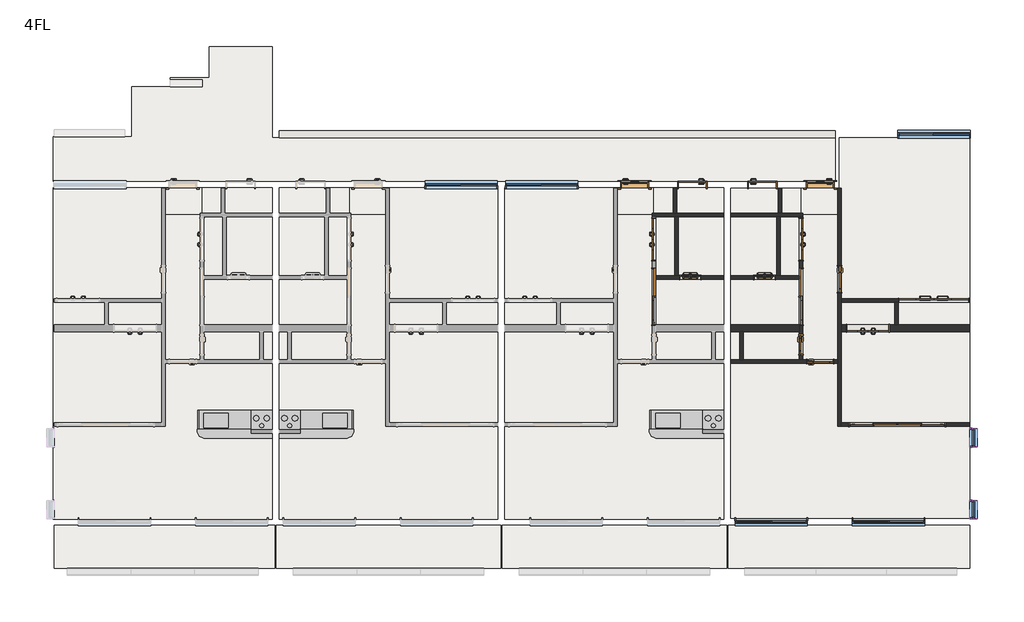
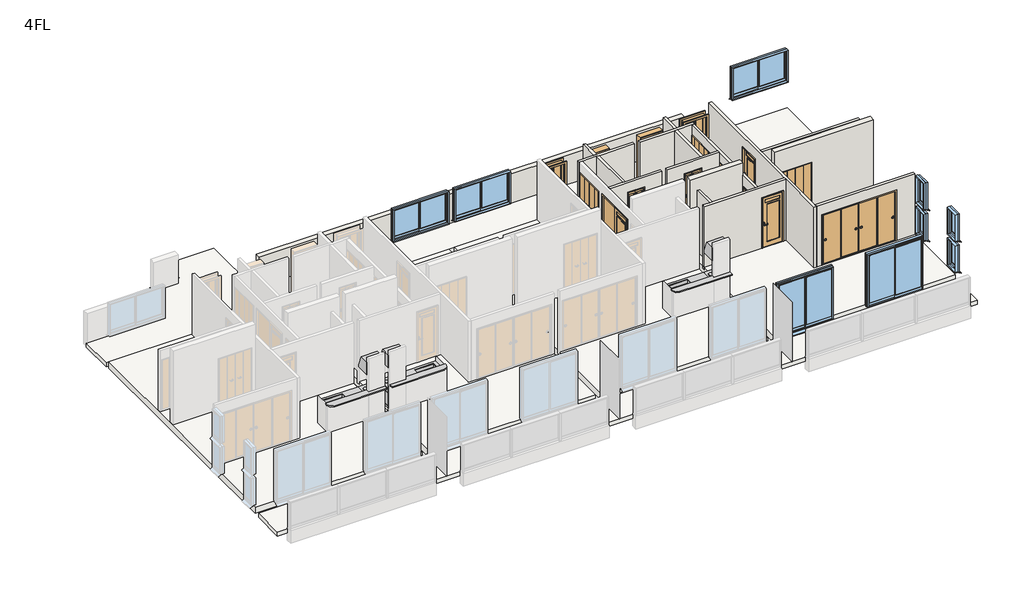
# One storey, part 3 of 3: 18 walls, 16 doors, 14 slabs, 9 windows, 3 flow terminals, 3 furniture elements.
"""IFC4 building model written with IfcOpenShell, lengths in millimetres."""

from ifc_helpers import new_model, si_unit, frame, origin, place, context, project, spatial, polyline, outline, extrude, faceted_brep, transform, mapped, element, save
from components import door_800x2000_a7d1584b, door_800x2000_010bfebf, w1200h2000_6a144d60, w1200h2000_99d19fb3, w1200h2000_ebe1d490, w1600h2000_4c3c234a, w1600h2000_ca690e72, w2000h2000_5dbb6d6a, w2800h2000_04aa64cd, w600h2000_6a266bef, w600h2000_94bb9c3c, w600h2000_8ea70a65, w800h2000_1d97c4d4, w800h2000_0ab7d42c, w800h2000_13e9f519, w800h2000_ccb03061, flow_terminal_5276808d, flow_terminal_b13850ba, furniture_3a0496f9, furniture_dadabe7c, window_2000x1200_fc91d1cf, window_2000x2000_f1ff98da, window_450x1000_1cddc73c

model = new_model("IFC4")

# Units and contexts
model_context = context("Model", 3, world=origin())
ifc_project = project(units=[si_unit("LENGTHUNIT", "METRE", prefix="MILLI")], contexts=[model_context])

# Site, building, storey
site = spatial("IfcSite", under=ifc_project)
building = spatial("IfcBuilding", under=site)
storey = spatial("IfcBuildingStorey", under=building, Name="4FL", Elevation=10000.0)

# Doors
placement = place(None, origin())
door_800x2000_shape = door_800x2000_a7d1584b(model_context)
element("IfcDoor", 1, ObjectType="片開き3 : 800x2000", at=placement, inside=storey, context=model_context, shape_type="MappedRepresentation", body=[
    mapped(door_800x2000_shape, transform((5521.2812754, -5726.3671638, 10000.0), x_axis=(1.0, 0.0, 0.0), y_axis=(0.0, 1.0, 0.0), z_axis=(0.0, 0.0, 1.0))),
])
door_800x2000_2_shape = door_800x2000_010bfebf(model_context)
element("IfcDoor", 2, ObjectType="片開き3 : 800x2000", at=placement, inside=storey, context=model_context, shape_type="MappedRepresentation", body=[
    mapped(door_800x2000_2_shape, transform((10821.2812754, -5726.3671638, 10000.0), x_axis=(-1.0, 0.0, 0.0), y_axis=(0.0, -1.0, 0.0), z_axis=(0.0, 0.0, 1.0))),
])
w1200h2000_shape = w1200h2000_6a144d60(model_context)
element("IfcDoor", 3, ObjectType="木製折戸 : w1200h2000", at=placement, inside=storey, context=model_context, shape_type="MappedRepresentation", body=[
    mapped(w1200h2000_shape, transform((6071.2812754, -7280.1171638, 10100.0), x_axis=(0.0, 1.0, 0.0), y_axis=(-1.0, 0.0, 0.0), z_axis=(0.0, 0.0, 1.0))),
])
w1200h2000_2_shape = w1200h2000_99d19fb3(model_context)
element("IfcDoor", 4, ObjectType="木製折戸 : w1200h2000", at=placement, inside=storey, context=model_context, shape_type="MappedRepresentation", body=[
    mapped(w1200h2000_2_shape, transform((10271.2812754, -7280.1171638, 10100.0), x_axis=(0.0, 1.0, 0.0), y_axis=(-1.0, 0.0, 0.0), z_axis=(0.0, 0.0, 1.0))),
])
w1200h2000_3_shape = w1200h2000_ebe1d490(model_context)
element("IfcDoor", 5, ObjectType="木製折戸 : w1200h2000", at=placement, inside=storey, context=model_context, shape_type="MappedRepresentation", body=[
    mapped(w1200h2000_3_shape, transform((12183.7812754, -9820.1171638, 10100.0), x_axis=(1.0, 0.0, 0.0), y_axis=(0.0, 1.0, 0.0), z_axis=(0.0, 0.0, 1.0))),
])
w1600h2000_shape = w1600h2000_4c3c234a(model_context)
element("IfcDoor", 6, ObjectType="片引戸CL2017 : w1600h2000", at=placement, inside=storey, context=model_context, shape_type="MappedRepresentation", body=[
    mapped(w1600h2000_shape, transform((6071.2812754, -8920.1171638, 10100.0), x_axis=(0.0, -1.0, 0.0), y_axis=(1.0, 0.0, 0.0), z_axis=(0.0, 0.0, 1.0))),
])
w1600h2000_2_shape = w1600h2000_ca690e72(model_context)
element("IfcDoor", 7, ObjectType="片引戸CL2017 : w1600h2000", at=placement, inside=storey, context=model_context, shape_type="MappedRepresentation", body=[
    mapped(w1600h2000_2_shape, transform((10271.2812754, -8920.1171638, 10100.0), x_axis=(0.0, -1.0, 0.0), y_axis=(1.0, 0.0, 0.0), z_axis=(0.0, 0.0, 1.0))),
])
w2000h2000_shape = w2000h2000_5dbb6d6a(model_context)
element("IfcDoor", 8, ObjectType="木製折戸 : w2000h2000", at=placement, inside=storey, context=model_context, shape_type="MappedRepresentation", body=[
    mapped(w2000h2000_shape, transform((14066.2812754, -9020.1171638, 10100.0), x_axis=(-1.0, 0.0, 0.0), y_axis=(0.0, -1.0, 0.0), z_axis=(0.0, 0.0, 1.0))),
])
w2800h2000_shape = w2800h2000_04aa64cd(model_context)
element("IfcDoor", 9, ObjectType="引違い 4 枚 2 溝_襖 : w2800h2000", at=placement, inside=storey, context=model_context, shape_type="MappedRepresentation", body=[
    mapped(w2800h2000_shape, transform((13026.8167793, -12570.1171638, 10100.0), x_axis=(1.0, 0.0, 0.0), y_axis=(0.0, 1.0, 0.0), z_axis=(0.0, 0.0, 1.0))),
])
w600h2000_shape = w600h2000_6a266bef(model_context)
element("IfcDoor", 10, ObjectType="浴室折戸 : w600h2000", at=placement, inside=storey, context=model_context, shape_type="MappedRepresentation", body=[
    mapped(w600h2000_shape, transform((7111.2812754, -8370.1171638, 10100.0), x_axis=(1.0, 0.0, 0.0), y_axis=(0.0, 1.0, 0.0), z_axis=(0.0, 0.0, 1.0))),
])
w600h2000_2_shape = w600h2000_94bb9c3c(model_context)
element("IfcDoor", 11, ObjectType="浴室折戸 : w600h2000", at=placement, inside=storey, context=model_context, shape_type="MappedRepresentation", body=[
    mapped(w600h2000_2_shape, transform((9231.2812754, -8370.1171638, 10100.0), x_axis=(-1.0, 0.0, 0.0), y_axis=(0.0, -1.0, 0.0), z_axis=(0.0, 0.0, 1.0))),
])
w600h2000_3_shape = w600h2000_8ea70a65(model_context)
element("IfcDoor", 12, ObjectType="片開戸CL2058 : w600h2000", at=placement, inside=storey, context=model_context, shape_type="MappedRepresentation", body=[
    mapped(w600h2000_3_shape, transform((10271.2812754, -10295.1171638, 10100.0), x_axis=(0.0, -1.0, 0.0), y_axis=(1.0, 0.0, 0.0), z_axis=(0.0, 0.0, 1.0))),
])
w800h2000_shape = w800h2000_1d97c4d4(model_context)
element("IfcDoor", 13, ObjectType="片開 : w800h2000", at=placement, inside=storey, context=model_context, shape_type="MappedRepresentation", body=[
    mapped(w800h2000_shape, transform((7171.2812754, -5726.3671638, 10000.0), x_axis=(-1.0, 0.0, 0.0), y_axis=(0.0, -1.0, 0.0), z_axis=(0.0, 0.0, 1.0))),
])
w800h2000_2_shape = w800h2000_0ab7d42c(model_context)
element("IfcDoor", 14, ObjectType="片開 : w800h2000", at=placement, inside=storey, context=model_context, shape_type="MappedRepresentation", body=[
    mapped(w800h2000_2_shape, transform((9171.2812754, -5726.3671638, 10000.0), x_axis=(1.0, 0.0, 0.0), y_axis=(0.0, 1.0, 0.0), z_axis=(0.0, 0.0, 1.0))),
])
w800h2000_3_shape = w800h2000_13e9f519(model_context)
element("IfcDoor", 15, ObjectType="片開戸CL2058 : w800h2000", at=placement, inside=storey, context=model_context, shape_type="MappedRepresentation", body=[
    mapped(w800h2000_3_shape, transform((10821.2812754, -10770.1171638, 10100.0), x_axis=(1.0, 0.0, 0.0), y_axis=(0.0, 1.0, 0.0), z_axis=(0.0, 0.0, 1.0))),
])
w800h2000_4_shape = w800h2000_ccb03061(model_context)
element("IfcDoor", 16, ObjectType="片開戸CL2058 : w800h2000", at=placement, inside=storey, context=model_context, shape_type="MappedRepresentation", body=[
    mapped(w800h2000_4_shape, transform((11371.2812754, -8420.1171638, 10100.0), x_axis=(0.0, -1.0, 0.0), y_axis=(1.0, 0.0, 0.0), z_axis=(0.0, 0.0, 1.0))),
])

# Flow terminals
flow_terminal_shape = flow_terminal_5276808d(model_context)
element("IfcFlowTerminal", 17, ObjectType="システムキッチンIH : システムキッチンIH", at=placement, inside=storey, context=model_context, shape_type="MappedRepresentation", body=[
    mapped(flow_terminal_shape, transform((-4828.7187246, -12720.1171638, 10200.0), x_axis=(1.0, 0.0, 0.0), y_axis=(0.0, 1.0, 0.0), z_axis=(0.0, 0.0, 1.0))),
])
element("IfcFlowTerminal", 18, ObjectType="システムキッチンIH : システムキッチンIH", at=placement, inside=storey, context=model_context, shape_type="MappedRepresentation", body=[
    mapped(flow_terminal_shape, transform((8071.2812754, -12720.1171638, 10200.0), x_axis=(1.0, 0.0, 0.0), y_axis=(0.0, 1.0, 0.0), z_axis=(0.0, 0.0, 1.0))),
])
flow_terminal_2_shape = flow_terminal_b13850ba(model_context)
element("IfcFlowTerminal", 19, ObjectType="システムキッチンIH : システムキッチンIH", at=placement, inside=storey, context=model_context, shape_type="MappedRepresentation", body=[
    mapped(flow_terminal_2_shape, transform((-4628.7187246, -12720.1171638, 10200.0), x_axis=(-1.0, 0.0, 0.0), y_axis=(0.0, -1.0, 0.0), z_axis=(0.0, 0.0, 1.0))),
])

# Furniture
furniture_shape = furniture_3a0496f9(model_context)
element("IfcFurniture", 20, ObjectType="キッチンカウンター : キッチンカウンター", at=placement, inside=storey, context=model_context, shape_type="MappedRepresentation", body=[
    mapped(furniture_shape, transform((-4628.7187246, -12820.1171638, 10100.0), x_axis=(-1.0, 0.0, 0.0), y_axis=(0.0, -1.0, 0.0), z_axis=(0.0, 0.0, 1.0))),
])
furniture_2_shape = furniture_dadabe7c(model_context)
element("IfcFurniture", 21, ObjectType="キッチンカウンター : キッチンカウンター", at=placement, inside=storey, context=model_context, shape_type="MappedRepresentation", body=[
    mapped(furniture_2_shape, transform((-4828.7187246, -12820.1171638, 10100.0), x_axis=(1.0, 0.0, 0.0), y_axis=(0.0, 1.0, 0.0), z_axis=(0.0, 0.0, 1.0))),
])
element("IfcFurniture", 22, ObjectType="キッチンカウンター : キッチンカウンター", at=placement, inside=storey, context=model_context, shape_type="MappedRepresentation", body=[
    mapped(furniture_2_shape, transform((8071.2812754, -12820.1171638, 10100.0), x_axis=(1.0, 0.0, 0.0), y_axis=(0.0, 1.0, 0.0), z_axis=(0.0, 0.0, 1.0))),
])

# Slabs
element("IfcSlab", 23, ObjectType="RC150＋100", at=placement, inside=storey, context=model_context, shape_type="SweptSolid", body=[
    extrude(outline(polyline([(-4828.7187246, -15270.1171638), (-11078.7187246, -15270.1171638), (-11078.7187246, -5800.1171638), (-7928.7187246, -5800.1171638), (-7928.7187246, -6580.1171638), (-6828.7187246, -6580.1171638), (-6828.7187246, -5800.1171638), (-4828.7187246, -5800.1171638), (-4828.7187246, -6580.1171638), (-6188.7187246, -6580.1171638), (-6188.7187246, -8370.1171638), (-4828.7187246, -8370.1171638), (-4828.7187246, -15270.1171638)])), frame((0.0, 0.0, 9850.0), z_axis=(0.0, 0.0, 1.0), x_axis=(1.0, 0.0, 0.0)), (0.0, 0.0, 1.0), 250.0),
])
element("IfcSlab", 24, ObjectType="RC150＋100", at=placement, inside=storey, context=model_context, shape_type="SweptSolid", body=[
    extrude(outline(polyline([(-4628.7187246, -15270.1171638), (-4628.7187246, -8370.1171638), (-3268.7187246, -8370.1171638), (-3268.7187246, -6580.1171638), (-4628.7187246, -6580.1171638), (-4628.7187246, -5800.1171638), (-2628.7187246, -5800.1171638), (-2628.7187246, -6580.1171638), (-1528.7187246, -6580.1171638), (-1528.7187246, -5800.1171638), (1621.2812754, -5800.1171638), (1621.2812754, -15270.1171638), (-4628.7187246, -15270.1171638)])), frame((0.0, 0.0, 9850.0), z_axis=(0.0, 0.0, 1.0), x_axis=(1.0, 0.0, 0.0)), (0.0, 0.0, 1.0), 250.0),
])
element("IfcSlab", 25, ObjectType="RC150＋100", at=placement, inside=storey, context=model_context, shape_type="SweptSolid", body=[
    extrude(outline(polyline([(8071.2812754, -15270.1171638), (1821.2812754, -15270.1171638), (1821.2812754, -5800.1171638), (4971.2812754, -5800.1171638), (4971.2812754, -6580.1171638), (6071.2812754, -6580.1171638), (6071.2812754, -5800.1171638), (8071.2812754, -5800.1171638), (8071.2812754, -6580.1171638), (6711.2812754, -6580.1171638), (6711.2812754, -8370.1171638), (8071.2812754, -8370.1171638), (8071.2812754, -15270.1171638)])), frame((0.0, 0.0, 9850.0), z_axis=(0.0, 0.0, 1.0), x_axis=(1.0, 0.0, 0.0)), (0.0, 0.0, 1.0), 250.0),
])
element("IfcSlab", 26, ObjectType="RC150＋100", at=placement, inside=storey, context=model_context, shape_type="SweptSolid", body=[
    extrude(outline(polyline([(8271.2812754, -15243.8671638), (8271.2812754, -8370.1171638), (9631.2812754, -8370.1171638), (9631.2812754, -6580.1171638), (8271.2812754, -6580.1171638), (8271.2812754, -5826.3671638), (10271.2812754, -5826.3671638), (10271.2812754, -6580.1171638), (11371.2812754, -6580.1171638), (11371.2812754, -4376.3671638), (15095.0312754, -4376.3671638), (15095.0312754, -15243.8671638), (8271.2812754, -15243.8671638)])), frame((0.0, 0.0, 9850.0), z_axis=(0.0, 0.0, 1.0), x_axis=(1.0, 0.0, 0.0)), (0.0, 0.0, 1.0), 250.0),
])
element("IfcSlab", 27, ObjectType="RC150", at=placement, inside=storey, context=model_context, shape_type="SweptSolid", body=[
    extrude(outline(polyline([(-4828.7187246, -8370.1171638), (-6188.7187246, -8370.1171638), (-6188.7187246, -6580.1171638), (-4828.7187246, -6580.1171638), (-4828.7187246, -8370.1171638)])), frame((0.0, 0.0, 9850.0), z_axis=(0.0, 0.0, 1.0), x_axis=(1.0, 0.0, 0.0)), (0.0, 0.0, 1.0), 150.0),
])
element("IfcSlab", 28, ObjectType="RC150", at=placement, inside=storey, context=model_context, shape_type="SweptSolid", body=[
    extrude(outline(polyline([(-6828.7187246, -6580.1171638), (-7928.7187246, -6580.1171638), (-7928.7187246, -5800.1171638), (-6828.7187246, -5800.1171638), (-6828.7187246, -6580.1171638)])), frame((0.0, 0.0, 9800.0), z_axis=(0.0, 0.0, 1.0), x_axis=(1.0, 0.0, 0.0)), (0.0, 0.0, 1.0), 150.0),
])
element("IfcSlab", 29, ObjectType="RC150", at=placement, inside=storey, context=model_context, shape_type="SweptSolid", body=[
    extrude(outline(polyline([(-4628.7187246, -8370.1171638), (-4628.7187246, -6580.1171638), (-3268.7187246, -6580.1171638), (-3268.7187246, -8370.1171638), (-4628.7187246, -8370.1171638)])), frame((0.0, 0.0, 9850.0), z_axis=(0.0, 0.0, 1.0), x_axis=(1.0, 0.0, 0.0)), (0.0, 0.0, 1.0), 150.0),
])
element("IfcSlab", 30, ObjectType="RC150", at=placement, inside=storey, context=model_context, shape_type="SweptSolid", body=[
    extrude(outline(polyline([(-2628.7187246, -6580.1171638), (-2628.7187246, -5800.1171638), (-1528.7187246, -5800.1171638), (-1528.7187246, -6580.1171638), (-2628.7187246, -6580.1171638)])), frame((0.0, 0.0, 9800.0), z_axis=(0.0, 0.0, 1.0), x_axis=(1.0, 0.0, 0.0)), (0.0, 0.0, 1.0), 150.0),
])
element("IfcSlab", 31, ObjectType="RC150", at=placement, inside=storey, context=model_context, shape_type="SweptSolid", body=[
    extrude(outline(polyline([(8071.2812754, -8370.1171638), (6711.2812754, -8370.1171638), (6711.2812754, -6580.1171638), (8071.2812754, -6580.1171638), (8071.2812754, -8370.1171638)])), frame((0.0, 0.0, 9850.0), z_axis=(0.0, 0.0, 1.0), x_axis=(1.0, 0.0, 0.0)), (0.0, 0.0, 1.0), 150.0),
])
element("IfcSlab", 32, ObjectType="RC150", at=placement, inside=storey, context=model_context, shape_type="SweptSolid", body=[
    extrude(outline(polyline([(6071.2812754, -6580.1171638), (4971.2812754, -6580.1171638), (4971.2812754, -5800.1171638), (6071.2812754, -5800.1171638), (6071.2812754, -6580.1171638)])), frame((0.0, 0.0, 9800.0), z_axis=(0.0, 0.0, 1.0), x_axis=(1.0, 0.0, 0.0)), (0.0, 0.0, 1.0), 150.0),
])
element("IfcSlab", 33, ObjectType="RC150", at=placement, inside=storey, context=model_context, shape_type="SweptSolid", body=[
    extrude(outline(polyline([(8271.2812754, -8370.1171638), (8271.2812754, -6580.1171638), (9631.2812754, -6580.1171638), (9631.2812754, -8370.1171638), (8271.2812754, -8370.1171638)])), frame((0.0, 0.0, 9850.0), z_axis=(0.0, 0.0, 1.0), x_axis=(1.0, 0.0, 0.0)), (0.0, 0.0, 1.0), 150.0),
])
element("IfcSlab", 34, ObjectType="RC150", at=placement, inside=storey, context=model_context, shape_type="SweptSolid", body=[
    extrude(outline(polyline([(10271.2812754, -6580.1171638), (10271.2812754, -5826.3671638), (11371.2812754, -5826.3671638), (11371.2812754, -6580.1171638), (10271.2812754, -6580.1171638)])), frame((0.0, 0.0, 9800.0), z_axis=(0.0, 0.0, 1.0), x_axis=(1.0, 0.0, 0.0)), (0.0, 0.0, 1.0), 150.0),
])
element("IfcSlab", 35, ObjectType="RC150", at=placement, inside=storey, context=model_context, shape_type="SweptSolid", body=[
    extrude(outline(polyline([(15095.0312754, -15443.8671638), (15095.0312754, -16670.1171638), (-11052.4687246, -16670.1171638), (-11052.4687246, -15443.8671638), (15095.0312754, -15443.8671638)])), frame((0.0, 0.0, 9800.0), z_axis=(0.0, 0.0, 1.0), x_axis=(1.0, 0.0, 0.0)), (0.0, 0.0, 1.0), 150.0),
])
element("IfcSlab", 36, ObjectType="RC150", at=placement, inside=storey, context=model_context, shape_type="SweptSolid", body=[
    extrude(outline(polyline([(-8828.7187246, -4350.1171638), (-8828.7187246, -2920.1171638), (-7728.7187246, -2920.1171638), (-7728.7187246, -2660.1171638), (-6628.7187246, -2660.1171638), (-6628.7187246, -1775.1171638), (-4828.7187246, -1775.1171638), (-4828.7187246, -4376.3671638), (11247.5312754, -4376.3671638), (11247.5312754, -5626.3671638), (-11078.7187246, -5626.3671638), (-11078.7187246, -4350.1171638), (-8828.7187246, -4350.1171638)])), frame((0.0, 0.0, 9800.0), z_axis=(0.0, 0.0, 1.0), x_axis=(1.0, 0.0, 0.0)), (0.0, 0.0, 1.0), 150.0),
])

# Walls
element("IfcWall", 37, ObjectType="(R)RC200", at=placement, inside=storey, context=model_context, shape_type="Brep", body=[
    faceted_brep([(15095.0312754, -9720.1171638, 10000.0), (13046.2812754, -9720.1171638, 10000.0), (12946.2812754, -9720.1171638, 10000.0), (11421.2812754, -9720.1171638, 10000.0), (11421.2812754, -9720.1171638, 13000.0), (15095.0312754, -9720.1171638, 13000.0), (12803.7812754, -9720.1171638, 12120.0), (11563.7812754, -9720.1171638, 12120.0), (11563.7812754, -9720.1171638, 10100.0), (12803.7812754, -9720.1171638, 10100.0), (15095.0312754, -9920.1171638, 10000.0), (15095.0312754, -9920.1171638, 13000.0), (11421.2812754, -9920.1171638, 13000.0), (11421.2812754, -9920.1171638, 10000.0), (12803.7812754, -9920.1171638, 12120.0), (12803.7812754, -9920.1171638, 10100.0), (11563.7812754, -9920.1171638, 10100.0), (11563.7812754, -9920.1171638, 12120.0)], [[[0, 1, 2, 3, 4, 5], [6, 7, 8, 9]], [[10, 11, 12, 13], [14, 15, 16, 17]], [[3, 2, 1, 0, 10, 13]], [[5, 4, 12, 11]], [[4, 3, 13, 12]], [[15, 14, 6, 9]], [[16, 15, 9, 8]], [[17, 16, 8, 7]], [[14, 17, 7, 6]], [[0, 5, 11, 10]]]),
])
element("IfcWall", 38, ObjectType="(R)RC200", at=placement, inside=storey, context=model_context, shape_type="Brep", body=[
    faceted_brep([(10221.2812754, -9720.1171638, 10000.0), (8271.2812754, -9720.1171638, 10000.0), (8271.2812754, -9720.1171638, 13000.0), (10221.2812754, -9720.1171638, 13000.0), (10221.2812754, -9920.1171638, 10000.0), (10221.2812754, -9920.1171638, 13000.0), (8271.2812754, -9920.1171638, 13000.0), (8271.2812754, -9920.1171638, 10000.0), (8521.2812754, -9920.1171638, 10000.0), (8621.2812754, -9920.1171638, 10000.0)], [[[0, 1, 2, 3]], [[4, 5, 6, 7, 8, 9]], [[1, 0, 4, 9, 8, 7]], [[3, 2, 6, 5]], [[0, 3, 5, 4]], [[2, 1, 7, 6]]]),
])
element("IfcWall", 39, ObjectType="(R)RC200", at=placement, inside=storey, context=model_context, shape_type="SweptSolid", body=[
    extrude(outline(polyline([(11247.5312754, -4376.3671638), (-4628.7187246, -4376.3671638), (-4628.7187246, -4176.3671638), (11247.5312754, -4176.3671638), (11247.5312754, -4376.3671638)])), frame((0.0, 0.0, 9800.0), z_axis=(0.0, 0.0, 1.0), x_axis=(1.0, 0.0, 0.0)), (0.0, 0.0, 1.0), 1300.0),
])
element("IfcWall", 40, ObjectType="(L1)LGS100", at=placement, inside=storey, context=model_context, shape_type="Brep", body=[
    faceted_brep([(6121.2812754, -8420.1171638, 10000.0), (8071.2812754, -8420.1171638, 10000.0), (8071.2812754, -8420.1171638, 12500.0), (6121.2812754, -8420.1171638, 12500.0), (7431.2812754, -8420.1171638, 12120.0), (7431.2812754, -8420.1171638, 10100.0), (6791.2812754, -8420.1171638, 10100.0), (6791.2812754, -8420.1171638, 12120.0), (6121.2812754, -8320.1171638, 10000.0), (6121.2812754, -8320.1171638, 12500.0), (6661.2812754, -8320.1171638, 12500.0), (6761.2812754, -8320.1171638, 12500.0), (8071.2812754, -8320.1171638, 12500.0), (8071.2812754, -8320.1171638, 10000.0), (6761.2812754, -8320.1171638, 10000.0), (6661.2812754, -8320.1171638, 10000.0), (7431.2812754, -8320.1171638, 12120.0), (6791.2812754, -8320.1171638, 12120.0), (6791.2812754, -8320.1171638, 10100.0), (7431.2812754, -8320.1171638, 10100.0)], [[[0, 1, 2, 3], [4, 5, 6, 7]], [[8, 9, 10, 11, 12, 13, 14, 15], [16, 17, 18, 19]], [[1, 0, 8, 15, 14, 13]], [[3, 2, 12, 11, 10, 9]], [[0, 3, 9, 8]], [[5, 4, 16, 19]], [[6, 5, 19, 18]], [[7, 6, 18, 17]], [[4, 7, 17, 16]], [[2, 1, 13, 12]]]),
])
element("IfcWall", 41, ObjectType="(L1)LGS100", at=placement, inside=storey, context=model_context, shape_type="Brep", body=[
    faceted_brep([(6021.2812754, -6630.1171638, 10000.0), (6121.2812754, -6630.1171638, 10000.0), (6661.2812754, -6630.1171638, 10000.0), (6761.2812754, -6630.1171638, 10000.0), (8071.2812754, -6630.1171638, 10000.0), (8071.2812754, -6630.1171638, 12500.0), (6761.2812754, -6630.1171638, 12500.0), (6661.2812754, -6630.1171638, 12500.0), (6121.2812754, -6630.1171638, 12500.0), (6021.2812754, -6630.1171638, 12500.0), (6021.2812754, -6530.1171638, 10000.0), (6021.2812754, -6530.1171638, 12500.0), (6621.2812754, -6530.1171638, 12500.0), (6721.2812754, -6530.1171638, 12500.0), (8071.2812754, -6530.1171638, 12500.0), (8071.2812754, -6530.1171638, 10000.0), (6721.2812754, -6530.1171638, 10000.0), (6621.2812754, -6530.1171638, 10000.0)], [[[0, 1, 2, 3, 4, 5, 6, 7, 8, 9]], [[10, 11, 12, 13, 14, 15, 16, 17]], [[4, 3, 2, 1, 0, 10, 17, 16, 15]], [[9, 8, 7, 6, 5, 14, 13, 12, 11]], [[0, 9, 11, 10]], [[5, 4, 15, 14]]]),
])
element("IfcWall", 42, ObjectType="(L1)LGS100", at=placement, inside=storey, context=model_context, shape_type="SweptSolid", body=[
    extrude(outline(polyline([(6721.2812754, -5826.3671638), (6721.2812754, -6530.1171638), (6621.2812754, -6530.1171638), (6621.2812754, -5826.3671638), (6721.2812754, -5826.3671638)])), frame((0.0, 0.0, 10000.0), z_axis=(0.0, 0.0, 1.0), x_axis=(1.0, 0.0, 0.0)), (0.0, 0.0, 1.0), 2500.0),
])
element("IfcWall", 43, ObjectType="(L1)LGS100", at=placement, inside=storey, context=model_context, shape_type="SweptSolid", body=[
    extrude(outline(polyline([(6761.2812754, -6630.1171638), (6761.2812754, -8320.1171638), (6661.2812754, -8320.1171638), (6661.2812754, -6630.1171638), (6761.2812754, -6630.1171638)])), frame((0.0, 0.0, 10000.0), z_axis=(0.0, 0.0, 1.0), x_axis=(1.0, 0.0, 0.0)), (0.0, 0.0, 1.0), 2500.0),
])
element("IfcWall", 44, ObjectType="(L1)LGS100", at=placement, inside=storey, context=model_context, shape_type="Brep", body=[
    faceted_brep([(15095.0312754, -8970.1171638, 10000.0), (11421.2812754, -8970.1171638, 10000.0), (11421.2812754, -8970.1171638, 12500.0), (15095.0312754, -8970.1171638, 12500.0), (13046.2812754, -8970.1171638, 12120.0), (13046.2812754, -8970.1171638, 10100.0), (15086.2812754, -8970.1171638, 10100.0), (15086.2812754, -8970.1171638, 12120.0), (11421.2812754, -9070.1171638, 10000.0), (12946.2812754, -9070.1171638, 10000.0), (13046.2812754, -9070.1171638, 10000.0), (15095.0312754, -9070.1171638, 10000.0), (15095.0312754, -9070.1171638, 12500.0), (13046.2812754, -9070.1171638, 12500.0), (12946.2812754, -9070.1171638, 12500.0), (11421.2812754, -9070.1171638, 12500.0), (13046.2812754, -9070.1171638, 10100.0), (13046.2812754, -9070.1171638, 12120.0), (15086.2812754, -9070.1171638, 12120.0), (15086.2812754, -9070.1171638, 10100.0)], [[[0, 1, 2, 3], [4, 5, 6, 7]], [[8, 9, 10, 11, 12, 13, 14, 15], [16, 17, 18, 19]], [[1, 0, 11, 10, 9, 8]], [[3, 2, 15, 14, 13, 12]], [[2, 1, 8, 15]], [[4, 17, 16, 5]], [[5, 16, 19, 6]], [[17, 4, 7, 18]], [[18, 7, 6, 19]], [[0, 3, 12, 11]]]),
])
element("IfcWall", 45, ObjectType="(L1)LGS100", at=placement, inside=storey, context=model_context, shape_type="Brep", body=[
    faceted_brep([(13046.2812754, -9720.1171638, 10000.0), (13046.2812754, -9070.1171638, 10000.0), (13046.2812754, -9070.1171638, 10100.0), (13046.2812754, -9070.1171638, 12120.0), (13046.2812754, -9070.1171638, 12500.0), (13046.2812754, -9720.1171638, 12500.0), (12946.2812754, -9720.1171638, 10000.0), (12946.2812754, -9720.1171638, 12500.0), (12946.2812754, -9070.1171638, 12500.0), (12946.2812754, -9070.1171638, 10000.0)], [[[0, 1, 2, 3, 4, 5]], [[6, 7, 8, 9]], [[1, 0, 6, 9]], [[5, 4, 8, 7]], [[0, 5, 7, 6]], [[4, 3, 2, 1, 9, 8]]]),
])
element("IfcWall", 46, ObjectType="(L1)LGS100", at=placement, inside=storey, context=model_context, shape_type="Brep", body=[
    faceted_brep([(11421.2812754, -12620.1171638, 10000.0), (11421.2812754, -12520.1171638, 10000.0), (11421.2812754, -9920.1171638, 10000.0), (11421.2812754, -9720.1171638, 10000.0), (11421.2812754, -9070.1171638, 10000.0), (11421.2812754, -8970.1171638, 10000.0), (11421.2812754, -5826.3671638, 10000.0), (11421.2812754, -5826.3671638, 12500.0), (11421.2812754, -8970.1171638, 12500.0), (11421.2812754, -9070.1171638, 12500.0), (11421.2812754, -12520.1171638, 12500.0), (11421.2812754, -12620.1171638, 12500.0), (11421.2812754, -8820.1171638, 10100.0), (11421.2812754, -8820.1171638, 12100.0), (11421.2812754, -8020.1171638, 12100.0), (11421.2812754, -8020.1171638, 10100.0), (11321.2812754, -12620.1171638, 10000.0), (11321.2812754, -12620.1171638, 12500.0), (11321.2812754, -10820.1171638, 12500.0), (11321.2812754, -10720.1171638, 12500.0), (11321.2812754, -5826.3671638, 12500.0), (11321.2812754, -5826.3671638, 10000.0), (11321.2812754, -10720.1171638, 10000.0), (11321.2812754, -10820.1171638, 10000.0), (11321.2812754, -8820.1171638, 10100.0), (11321.2812754, -8020.1171638, 10100.0), (11321.2812754, -8020.1171638, 12100.0), (11321.2812754, -8820.1171638, 12100.0)], [[[0, 1, 2, 3, 4, 5, 6, 7, 8, 9, 10, 11], [12, 13, 14, 15]], [[16, 17, 18, 19, 20, 21, 22, 23], [24, 25, 26, 27]], [[6, 5, 4, 3, 2, 1, 0, 16, 23, 22, 21]], [[11, 10, 9, 8, 7, 20, 19, 18, 17]], [[0, 11, 17, 16]], [[13, 12, 24, 27]], [[14, 13, 27, 26]], [[15, 14, 26, 25]], [[12, 15, 25, 24]], [[7, 6, 21, 20]]]),
])
element("IfcWall", 47, ObjectType="(L1)LGS100", at=placement, inside=storey, context=model_context, shape_type="Brep", body=[
    faceted_brep([(10221.2812754, -8320.1171638, 10000.0), (9681.2812754, -8320.1171638, 10000.0), (9581.2812754, -8320.1171638, 10000.0), (8271.2812754, -8320.1171638, 10000.0), (8271.2812754, -8320.1171638, 12500.0), (9581.2812754, -8320.1171638, 12500.0), (9681.2812754, -8320.1171638, 12500.0), (10221.2812754, -8320.1171638, 12500.0), (8911.2812754, -8320.1171638, 12120.0), (8911.2812754, -8320.1171638, 10100.0), (9551.2812754, -8320.1171638, 10100.0), (9551.2812754, -8320.1171638, 12120.0), (10221.2812754, -8420.1171638, 10000.0), (10221.2812754, -8420.1171638, 12500.0), (8271.2812754, -8420.1171638, 12500.0), (8271.2812754, -8420.1171638, 10000.0), (8911.2812754, -8420.1171638, 12120.0), (9551.2812754, -8420.1171638, 12120.0), (9551.2812754, -8420.1171638, 10100.0), (8911.2812754, -8420.1171638, 10100.0)], [[[0, 1, 2, 3, 4, 5, 6, 7], [8, 9, 10, 11]], [[12, 13, 14, 15], [16, 17, 18, 19]], [[3, 2, 1, 0, 12, 15]], [[7, 6, 5, 4, 14, 13]], [[0, 7, 13, 12]], [[9, 8, 16, 19]], [[10, 9, 19, 18]], [[11, 10, 18, 17]], [[8, 11, 17, 16]], [[4, 3, 15, 14]]]),
])
element("IfcWall", 48, ObjectType="(L1)LGS100", at=placement, inside=storey, context=model_context, shape_type="Brep", body=[
    faceted_brep([(10321.2812754, -10720.1171638, 10000.0), (10321.2812754, -6630.1171638, 10000.0), (10321.2812754, -6630.1171638, 12500.0), (10321.2812754, -10720.1171638, 12500.0), (10321.2812754, -10595.1171638, 10100.0), (10321.2812754, -10595.1171638, 12100.0), (10321.2812754, -9995.1171638, 12100.0), (10321.2812754, -9995.1171638, 10100.0), (10321.2812754, -6660.1171638, 10100.0), (10321.2812754, -7900.1171638, 10100.0), (10321.2812754, -7900.1171638, 12120.0), (10321.2812754, -6660.1171638, 12120.0), (10321.2812754, -9745.1171638, 10100.0), (10321.2812754, -9745.1171638, 12140.0), (10321.2812754, -8095.1171638, 12140.0), (10321.2812754, -8095.1171638, 10100.0), (10221.2812754, -6630.1171638, 10000.0), (10221.2812754, -8320.1171638, 10000.0), (10221.2812754, -8420.1171638, 10000.0), (10221.2812754, -9720.1171638, 10000.0), (10221.2812754, -9920.1171638, 10000.0), (10221.2812754, -10720.1171638, 10000.0), (10221.2812754, -10720.1171638, 12500.0), (10221.2812754, -8420.1171638, 12500.0), (10221.2812754, -8320.1171638, 12500.0), (10221.2812754, -6630.1171638, 12500.0), (10221.2812754, -10595.1171638, 12100.0), (10221.2812754, -10595.1171638, 10100.0), (10221.2812754, -9995.1171638, 10100.0), (10221.2812754, -9995.1171638, 12100.0), (10221.2812754, -7900.1171638, 10100.0), (10221.2812754, -6660.1171638, 10100.0), (10221.2812754, -6660.1171638, 12120.0), (10221.2812754, -7900.1171638, 12120.0), (10221.2812754, -9745.1171638, 10100.0), (10221.2812754, -8095.1171638, 10100.0), (10221.2812754, -8095.1171638, 12140.0), (10221.2812754, -9745.1171638, 12140.0)], [[[0, 1, 2, 3], [4, 5, 6, 7], [8, 9, 10, 11], [12, 13, 14, 15]], [[16, 17, 18, 19, 20, 21, 22, 23, 24, 25], [26, 27, 28, 29], [30, 31, 32, 33], [34, 35, 36, 37]], [[1, 0, 21, 20, 19, 18, 17, 16]], [[3, 2, 25, 24, 23, 22]], [[0, 3, 22, 21]], [[2, 1, 16, 25]], [[5, 4, 27, 26]], [[6, 5, 26, 29]], [[7, 6, 29, 28]], [[4, 7, 28, 27]], [[8, 31, 30, 9]], [[9, 30, 33, 10]], [[10, 33, 32, 11]], [[13, 12, 34, 37]], [[14, 13, 37, 36]], [[15, 14, 36, 35]], [[12, 15, 35, 34]], [[31, 8, 11, 32]]]),
])
element("IfcWall", 49, ObjectType="(L1)LGS100", at=placement, inside=storey, context=model_context, shape_type="Brep", body=[
    faceted_brep([(10321.2812754, -6530.1171638, 10000.0), (9721.2812754, -6530.1171638, 10000.0), (9621.2812754, -6530.1171638, 10000.0), (8271.2812754, -6530.1171638, 10000.0), (8271.2812754, -6530.1171638, 12500.0), (9621.2812754, -6530.1171638, 12500.0), (9721.2812754, -6530.1171638, 12500.0), (10321.2812754, -6530.1171638, 12500.0), (10321.2812754, -6630.1171638, 10000.0), (10321.2812754, -6630.1171638, 12500.0), (10221.2812754, -6630.1171638, 12500.0), (9681.2812754, -6630.1171638, 12500.0), (9581.2812754, -6630.1171638, 12500.0), (8271.2812754, -6630.1171638, 12500.0), (8271.2812754, -6630.1171638, 10000.0), (9581.2812754, -6630.1171638, 10000.0), (9681.2812754, -6630.1171638, 10000.0), (10221.2812754, -6630.1171638, 10000.0)], [[[0, 1, 2, 3, 4, 5, 6, 7]], [[8, 9, 10, 11, 12, 13, 14, 15, 16, 17]], [[3, 2, 1, 0, 8, 17, 16, 15, 14]], [[7, 6, 5, 4, 13, 12, 11, 10, 9]], [[0, 7, 9, 8]], [[4, 3, 14, 13]]]),
])
element("IfcWall", 50, ObjectType="(L1)LGS100", at=placement, inside=storey, context=model_context, shape_type="SweptSolid", body=[
    extrude(outline(polyline([(9721.2812754, -5826.3671638), (9721.2812754, -6530.1171638), (9621.2812754, -6530.1171638), (9621.2812754, -5826.3671638), (9721.2812754, -5826.3671638)])), frame((0.0, 0.0, 10000.0), z_axis=(0.0, 0.0, 1.0), x_axis=(1.0, 0.0, 0.0)), (0.0, 0.0, 1.0), 2500.0),
])
element("IfcWall", 51, ObjectType="(L1)LGS100", at=placement, inside=storey, context=model_context, shape_type="SweptSolid", body=[
    extrude(outline(polyline([(9681.2812754, -6630.1171638), (9681.2812754, -8320.1171638), (9581.2812754, -8320.1171638), (9581.2812754, -6630.1171638), (9681.2812754, -6630.1171638)])), frame((0.0, 0.0, 10000.0), z_axis=(0.0, 0.0, 1.0), x_axis=(1.0, 0.0, 0.0)), (0.0, 0.0, 1.0), 2500.0),
])
element("IfcWall", 52, ObjectType="(L1)LGS100", at=placement, inside=storey, context=model_context, shape_type="SweptSolid", body=[
    extrude(outline(polyline([(8621.2812754, -9920.1171638), (8621.2812754, -10720.1171638), (8521.2812754, -10720.1171638), (8521.2812754, -9920.1171638), (8621.2812754, -9920.1171638)])), frame((0.0, 0.0, 10000.0), z_axis=(0.0, 0.0, 1.0), x_axis=(1.0, 0.0, 0.0)), (0.0, 0.0, 1.0), 2500.0),
])
element("IfcWall", 53, ObjectType="(L1)LGS100", at=placement, inside=storey, context=model_context, shape_type="Brep", body=[
    faceted_brep([(11321.2812754, -10720.1171638, 10000.0), (10321.2812754, -10720.1171638, 10000.0), (10221.2812754, -10720.1171638, 10000.0), (8621.2812754, -10720.1171638, 10000.0), (8521.2812754, -10720.1171638, 10000.0), (8271.2812754, -10720.1171638, 10000.0), (8271.2812754, -10720.1171638, 12500.0), (8521.2812754, -10720.1171638, 12500.0), (8621.2812754, -10720.1171638, 12500.0), (10221.2812754, -10720.1171638, 12500.0), (10321.2812754, -10720.1171638, 12500.0), (11321.2812754, -10720.1171638, 12500.0), (11221.2812754, -10720.1171638, 10100.0), (11221.2812754, -10720.1171638, 12100.0), (10421.2812754, -10720.1171638, 12100.0), (10421.2812754, -10720.1171638, 10100.0), (8271.2812754, -10820.1171638, 10000.0), (11321.2812754, -10820.1171638, 10000.0), (11321.2812754, -10820.1171638, 12500.0), (8271.2812754, -10820.1171638, 12500.0), (11221.2812754, -10820.1171638, 12100.0), (11221.2812754, -10820.1171638, 10100.0), (10421.2812754, -10820.1171638, 10100.0), (10421.2812754, -10820.1171638, 12100.0)], [[[0, 1, 2, 3, 4, 5, 6, 7, 8, 9, 10, 11], [12, 13, 14, 15]], [[16, 17, 18, 19], [20, 21, 22, 23]], [[5, 4, 3, 2, 1, 0, 17, 16]], [[11, 10, 9, 8, 7, 6, 19, 18]], [[0, 11, 18, 17]], [[12, 21, 20, 13]], [[13, 20, 23, 14]], [[14, 23, 22, 15]], [[21, 12, 15, 22]], [[6, 5, 16, 19]]]),
])
element("IfcWall", 54, ObjectType="(L1)LGS100", at=placement, inside=storey, context=model_context, shape_type="SweptSolid", body=[
    extrude(outline(polyline([(10000.0, 15095.0312754), (12500.0, 15095.0312754), (12500.0, 11421.2812754), (10000.0, 11421.2812754), (10000.0, 15095.0312754)]), holes=[polyline([(12100.0, 14421.2812754), (10100.0, 14421.2812754), (10100.0, 11621.2812754), (12100.0, 11621.2812754), (12100.0, 14421.2812754)])]), frame((0.0, -12620.1171638, 0.0), z_axis=(0.0, 1.0, 0.0), x_axis=(0.0, 0.0, 1.0)), (0.0, 0.0, 1.0), 100.0),
])

# Windows
window_2000x1200_shape = window_2000x1200_fc91d1cf(model_context)
element("IfcWindow", 55, ObjectType="鋼製_一般枠_引違い-二枚 : 2000x1200", at=placement, inside=storey, context=model_context, shape_type="MappedRepresentation", body=[
    mapped(window_2000x1200_shape, transform((571.2812754, -5726.3671638, 10250.0), x_axis=(1.0, 0.0, 0.0), y_axis=(0.0, 1.0, 0.0), z_axis=(0.0, 0.0, 1.0))),
])
element("IfcWindow", 56, ObjectType="鋼製_一般枠_引違い-二枚 : 2000x1200", at=placement, inside=storey, context=model_context, shape_type="MappedRepresentation", body=[
    mapped(window_2000x1200_shape, transform((2871.2812754, -5726.3671638, 10250.0), x_axis=(1.0, 0.0, 0.0), y_axis=(0.0, 1.0, 0.0), z_axis=(0.0, 0.0, 1.0))),
])
element("IfcWindow", 57, ObjectType="鋼製_一般枠_引違い-二枚 : 2000x1200", at=placement, inside=storey, context=model_context, shape_type="MappedRepresentation", body=[
    mapped(window_2000x1200_shape, transform((14071.2812754, -4276.3671638, 10250.0), x_axis=(1.0, 0.0, 0.0), y_axis=(0.0, 1.0, 0.0), z_axis=(0.0, 0.0, 1.0))),
])
window_2000x2000_shape = window_2000x2000_f1ff98da(model_context)
element("IfcWindow", 58, ObjectType="鋼製_一般枠_引違い-二枚 : 2000x2000", at=placement, inside=storey, context=model_context, shape_type="MappedRepresentation", body=[
    mapped(window_2000x2000_shape, transform((12771.2812754, -15343.8671638, 9200.0), x_axis=(-1.0, 0.0, 0.0), y_axis=(0.0, -1.0, 0.0), z_axis=(0.0, 0.0, 1.0))),
])
element("IfcWindow", 59, ObjectType="鋼製_一般枠_引違い-二枚 : 2000x2000", at=placement, inside=storey, context=model_context, shape_type="MappedRepresentation", body=[
    mapped(window_2000x2000_shape, transform((9421.2812754, -15343.8671638, 9200.0), x_axis=(-1.0, 0.0, 0.0), y_axis=(0.0, -1.0, 0.0), z_axis=(0.0, 0.0, 1.0))),
])
window_450x1000_shape = window_450x1000_1cddc73c(model_context)
element("IfcWindow", 60, ObjectType="鋼製_一般枠_嵌殺し : 450x1000", at=placement, inside=storey, context=model_context, shape_type="MappedRepresentation", body=[
    mapped(window_450x1000_shape, transform((15195.0312754, -14995.1171638, 9010.0), x_axis=(0.0, 1.0, 0.0), y_axis=(-1.0, 0.0, 0.0), z_axis=(0.0, 0.0, 1.0))),
])
element("IfcWindow", 61, ObjectType="鋼製_一般枠_嵌殺し : 450x1000", at=placement, inside=storey, context=model_context, shape_type="MappedRepresentation", body=[
    mapped(window_450x1000_shape, transform((15195.0312754, -12945.1171638, 9010.0), x_axis=(0.0, 1.0, 0.0), y_axis=(-1.0, 0.0, 0.0), z_axis=(0.0, 0.0, 1.0))),
])
element("IfcWindow", 62, ObjectType="鋼製_一般枠_嵌殺し : 450x1000", at=placement, inside=storey, context=model_context, shape_type="MappedRepresentation", body=[
    mapped(window_450x1000_shape, transform((15195.0312754, -14995.1171638, 10230.0), x_axis=(0.0, 1.0, 0.0), y_axis=(-1.0, 0.0, 0.0), z_axis=(0.0, 0.0, 1.0))),
])
element("IfcWindow", 63, ObjectType="鋼製_一般枠_嵌殺し : 450x1000", at=placement, inside=storey, context=model_context, shape_type="MappedRepresentation", body=[
    mapped(window_450x1000_shape, transform((15195.0312754, -12945.1171638, 10230.0), x_axis=(0.0, 1.0, 0.0), y_axis=(-1.0, 0.0, 0.0), z_axis=(0.0, 0.0, 1.0))),
])

save(model, "model.ifc")
